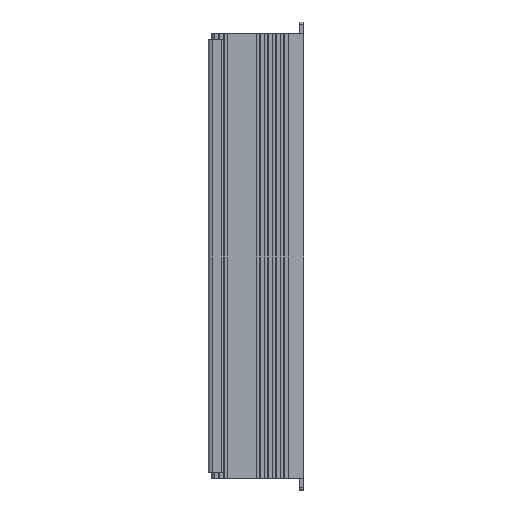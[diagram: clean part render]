
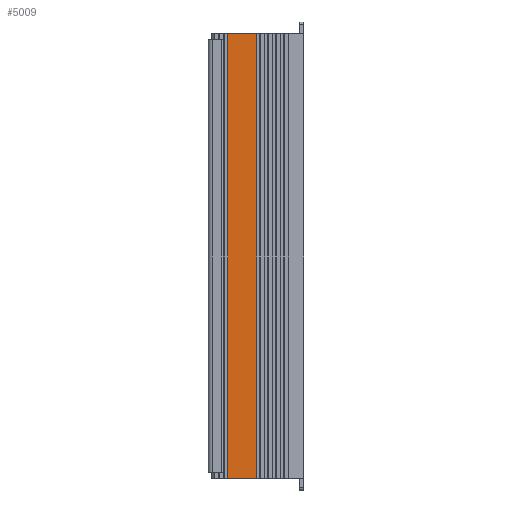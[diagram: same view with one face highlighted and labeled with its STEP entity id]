
A CAD part, left-side view. The second image highlights one B-rep face of the part: STEP entity #5009.
In plain terms, the highlighted planar face has unit normal (-1, 0, 0).
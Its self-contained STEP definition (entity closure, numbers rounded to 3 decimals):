
#29=DIRECTION('',(0.,-1.,0.));
#30=VECTOR('',#29,7.);
#31=CARTESIAN_POINT('',(-14.15,7.35,-55.45));
#32=LINE('',#31,#30);
#793=DIRECTION('',(0.,-1.,0.));
#794=VECTOR('',#793,7.);
#795=CARTESIAN_POINT('',(-14.15,7.35,55.45));
#796=LINE('',#795,#794);
#1946=DIRECTION('',(0.,0.,1.));
#1947=VECTOR('',#1946,110.9);
#1948=CARTESIAN_POINT('',(-14.15,0.35,-55.45));
#1949=LINE('',#1948,#1947);
#1950=DIRECTION('',(0.,0.,1.));
#1951=VECTOR('',#1950,110.9);
#1952=CARTESIAN_POINT('',(-14.15,7.35,-55.45));
#1953=LINE('',#1952,#1951);
#2342=CARTESIAN_POINT('',(-14.15,7.35,-55.45));
#2343=CARTESIAN_POINT('',(-14.15,7.35,55.45));
#2344=VERTEX_POINT('',#2342);
#2345=VERTEX_POINT('',#2343);
#2350=CARTESIAN_POINT('',(-14.15,0.35,-55.45));
#2351=CARTESIAN_POINT('',(-14.15,0.35,55.45));
#2352=VERTEX_POINT('',#2350);
#2353=VERTEX_POINT('',#2351);
#4996=CARTESIAN_POINT('',(-14.15,11.55,-55.45));
#4997=DIRECTION('',(-1.,0.,0.));
#4998=DIRECTION('',(0.,-1.,0.));
#4999=AXIS2_PLACEMENT_3D('',#4996,#4997,#4998);
#5000=PLANE('',#4999);
#5002=ORIENTED_EDGE('',*,*,#5001,.F.);
#5003=ORIENTED_EDGE('',*,*,#2969,.F.);
#5005=ORIENTED_EDGE('',*,*,#5004,.T.);
#5006=ORIENTED_EDGE('',*,*,#3601,.T.);
#5007=EDGE_LOOP('',(#5002,#5003,#5005,#5006));
#5008=FACE_OUTER_BOUND('',#5007,.F.);
#5009=ADVANCED_FACE('',(#5008),#5000,.T.);
#2969=EDGE_CURVE('',#2344,#2352,#32,.T.);
#3601=EDGE_CURVE('',#2345,#2353,#796,.T.);
#5001=EDGE_CURVE('',#2352,#2353,#1949,.T.);
#5004=EDGE_CURVE('',#2344,#2345,#1953,.T.);
